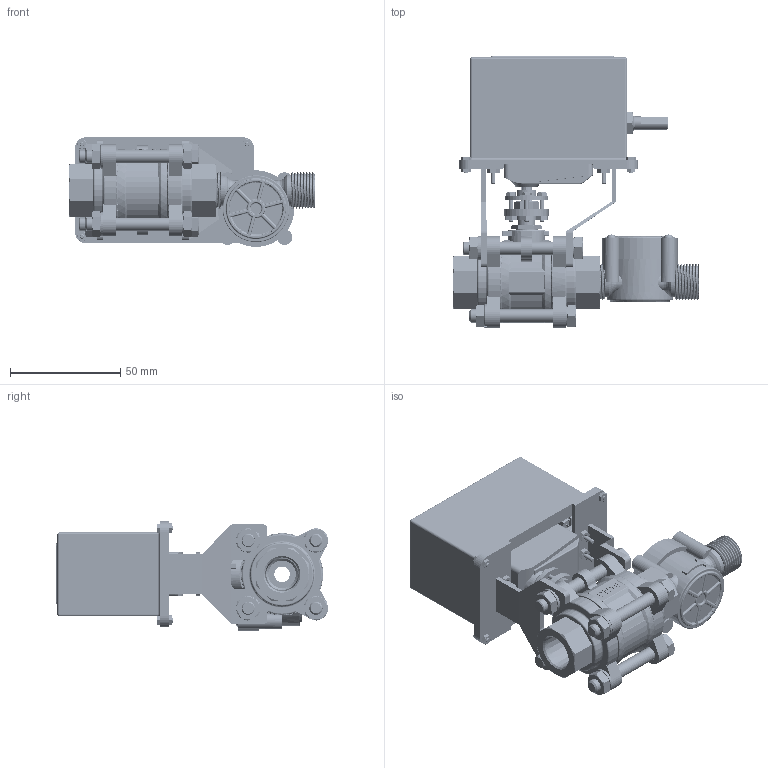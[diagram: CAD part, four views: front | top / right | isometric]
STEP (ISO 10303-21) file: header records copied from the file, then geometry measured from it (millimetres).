
FILE_DESCRIPTION(/* description */ ('STEP AP214'),/* implementation_level */ '2;1');
FILE_NAME(/* name */ 'C:\Users\admin\Desktop\inventor\vslvola_proporzionale_esp32\step\Servo_Valve_esp32.stp',/* time_stamp */ '2021-12-20T10:10:46+01:00',/* author */ ('admin'),/* organization */ (''),/* preprocessor_version */ 'ST-DEVELOPER v18.1',/* originating_system */ 'Autodesk Inventor 2022',/* authorisation */ ' ');
FILE_SCHEMA (('AUTOMOTIVE_DESIGN { 1 0 10303 214 3 1 1 }'));
Products named in the file (61): 3-piece Ball_Valve; _DN10  Packing; _DN10  Packing_1; _DN10  Packing_2; _DN10  Packing_7; _DN10  Packing_8; _DN10  Packing_9; _DN10  Packing_10; _DN10  Packing_11; _DN10  Packing_12; _DN10  Packing_13; _DN10  Packing_14; _DN10  Packing_15; _DN10  Packing_16; _DN10  Packing_17; _DN10  Packing_18; _DN10  Packing_19; _DN10  Packing_20; _DN10  Packing_21; _DN10  Packing_22; _DN10  Packing_23; _DN10  Packing_24; _DN10  Packing_25; Servo_20kg; disco.mg995.Al; blocco_perno_sfera; blocco_perno; AS 1112 - M6; blocco_servo; AS 1110 - M2 x 12; AS 1112 - M2,5  Tipo 5; involucro_servo; G3_8_water_flow_sensor v5; Component1; 94997A130; Parte4; AS 1110 - M2 x 6; AS 1112 - M2  Tipo 5; 19264-05 LCD; PCB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
Assembly tree (96 placements, depth 4):
  3-piece Ball_Valve
    _DN10  Packing
    _DN10  Packing_1
    _DN10  Packing_2
    _DN10  Packing_7
    _DN10  Packing_8
    _DN10  Packing_9
    _DN10  Packing_10
    _DN10  Packing_11
    _DN10  Packing_12
    _DN10  Packing_13
    _DN10  Packing_14
    _DN10  Packing_15
    _DN10  Packing_16
    _DN10  Packing_17
    _DN10  Packing_18
    _DN10  Packing_19
    _DN10  Packing_20
    _DN10  Packing_21
    _DN10  Packing_22
    _DN10  Packing_23
    _DN10  Packing_24
    _DN10  Packing_25
    Servo_20kg
    disco.mg995.Al
    blocco_perno_sfera
    blocco_perno
    AS 1112 - M6
    AS 1110 - M2 x 12  x8
    AS 1112 - M2,5  Tipo 5  x8
    blocco_servo
    involucro_servo
    G3_8_water_flow_sensor v5
      Component1
        94997A130  x4
        Parte4
    AS 1110 - M2 x 6  x4
    AS 1112 - M2  Tipo 5  x4
    19264-05 LCD
      PCB
      TFT DISPLAY
    ESP32Wroom4
      nodeMCU
      J3Y_transistor  x2
      ESP_Wroom
      AMS1117
      SILABS
      push button  x2
      led_red
      led_blue
      capp
      2.1
      1mm  x4
      shotkeydiode
      SMD resistor  x9
      Micro USB-B Female 5Pin SMD
    RK0971-L-20F_N-5-black
      RK097x-Housing1
      RK097x-Cover
      RK097x-Base-Rivets-ShaftF
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Bounding box: 111.8 x 123.29 x 49.64 mm (x, y, z)
Volume: 163250.8 mm3; surface area: 111583.6 mm2
Topology: 209 solids, 247 shells, 8836 faces, 23284 edges, 15293 vertices
Faces by surface type: plane 5800, cylinder 1191, bspline 1160, cone 464, torus 159, sphere 62
Full cylindrical faces by diameter (mm): 0.185 x1, 0.25 x1, 0.6 x2, 1 x17, 1.5 x2, 1.567 x4, 1.575 x40, 1.6 x4, 2 x59, 2.013 x8, 2.17 x32, 2.2 x4, 2.5 x8, 2.6 x20, 3 x1, 3.2 x1, 4 x12, 4.15 x4, 4.917 x6, 5 x3, 6 x5, 6.2 x14, 7 x7, 8 x5, 8.917 x1, 9 x8, 10 x3, 11 x2, 12 x1, 12.5 x3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
Entity records: 280166 total; most frequent: CARTESIAN_POINT 87884, ORIENTED_EDGE 41266, DIRECTION 33762, EDGE_CURVE 20633, LINE 15234, VECTOR 15234, VERTEX_POINT 13730, AXIS2_PLACEMENT_3D 9264
